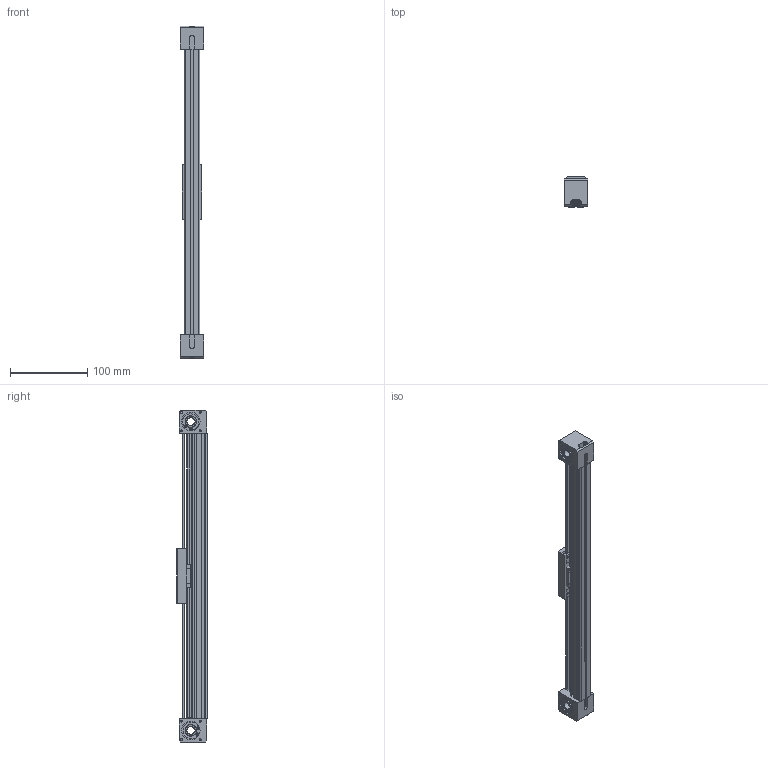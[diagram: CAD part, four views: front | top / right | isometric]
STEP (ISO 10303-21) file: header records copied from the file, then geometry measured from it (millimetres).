
FILE_DESCRIPTION (( 'STEP AP214' ), '1' );
FILE_NAME ('WMAS-020-0300 (3D).STEP', '2024-08-29T05:11:26', ( '' ), ( '' ), 'SwSTEP 2.0', 'SolidWorks 2023', '' );
FILE_SCHEMA (( 'AUTOMOTIVE_DESIGN' ));
Length unit declared in the file: millimetre
Products named in the file (3): WMAS-020-0300 (3D); Group2^WMAS-020-0300 (3D); Group1^WMAS-020-0300 (3D)
Assembly tree (2 placements, depth 2):
  WMAS-020-0300 (3D)
    Group1^WMAS-020-0300 (3D)
    Group2^WMAS-020-0300 (3D)
Bounding box: 30 x 39 x 430 mm (x, y, z)
Volume: 214893.8 mm3; surface area: 117326.2 mm2
Topology: 28 solids, 44 shells, 1278 faces, 3152 edges, 2014 vertices
Faces by surface type: plane 800, cylinder 235, cone 167, bspline 52, torus 24
Full cylindrical faces by diameter (mm): 1.2 x2, 2 x16, 2.2 x1, 2.5 x24, 3 x28, 3.4 x12, 5.5 x8, 5.7 x16, 5.94 x1, 15 x6, 24 x4, 25.2 x4
Entity records: 38053 total; most frequent: CARTESIAN_POINT 9143, DIRECTION 5799, ORIENTED_EDGE 5602, EDGE_CURVE 2801, AXIS2_PLACEMENT_3D 1988, VERTEX_POINT 1904, LINE 1823, VECTOR 1823
